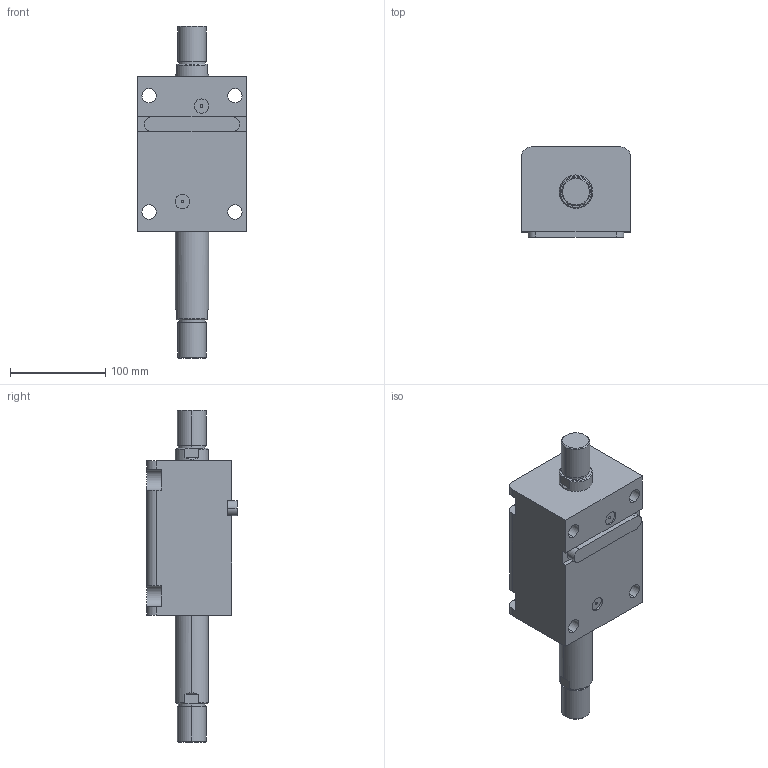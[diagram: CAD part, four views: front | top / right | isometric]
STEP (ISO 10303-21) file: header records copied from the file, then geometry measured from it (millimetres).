
FILE_DESCRIPTION (( 'STEP AP203' ), '1' );
FILE_NAME ('HTB-LWM63-80W.STEP', '2020-12-25T03:53:42', ( '微软用户' ), ( '微软中国' ), 'SwSTEP 2.0', 'SolidWorks 2012', '' );
FILE_SCHEMA (( 'CONFIG_CONTROL_DESIGN' ));
Length unit declared in the file: millimetre
Products named in the file (4): HTB-LWM63-80W; HTB-LWM63-瑩; HTB-LWM63-80掛极; HTB-LWM63-80W活塞杆
Assembly tree (3 placements, depth 2):
  HTB-LWM63-80W
    HTB-LWM63-80掛极
    HTB-LWM63-80W活塞杆
    HTB-LWM63-瑩
Bounding box: 114 x 94.5 x 348 mm (x, y, z)
Volume: 1550188.4 mm3; surface area: 179827.8 mm2
Topology: 3 solids, 3 shells, 113 faces, 273 edges, 178 vertices
Faces by surface type: cylinder 49, plane 48, torus 8, cone 8
Entity records: 3783 total; most frequent: CARTESIAN_POINT 626, DIRECTION 617, ORIENTED_EDGE 546, EDGE_CURVE 273, AXIS2_PLACEMENT_3D 241, VERTEX_POINT 178, EDGE_LOOP 135, LINE 135
